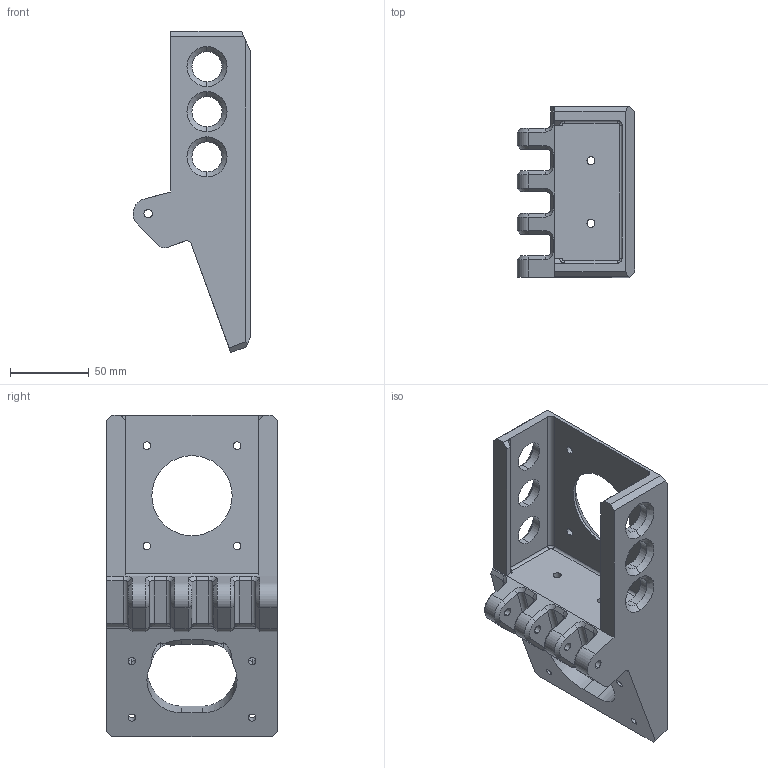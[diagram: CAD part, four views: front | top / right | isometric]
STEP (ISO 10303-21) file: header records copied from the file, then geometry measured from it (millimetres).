
FILE_DESCRIPTION (( 'STEP AP214' ), '1' );
FILE_NAME ('Bracket Half.STEP', '2025-06-10T03:28:48', ( '' ), ( '' ), 'SwSTEP 2.0', 'SolidWorks 2024', '' );
FILE_SCHEMA (( 'AUTOMOTIVE_DESIGN' ));
Length unit declared in the file: inch
Products named in the file (1): Bracket Half
Bounding box: 74.57 x 107.95 x 203.2 mm (x, y, z)
Volume: 425543.1 mm3; surface area: 87572.4 mm2
Topology: 1 solids, 2 shells, 270 faces, 648 edges, 394 vertices
Faces by surface type: cylinder 97, plane 91, cone 61, torus 12, bspline 9
Entity records: 9175 total; most frequent: CARTESIAN_POINT 2748, DIRECTION 1376, ORIENTED_EDGE 1296, EDGE_CURVE 648, AXIS2_PLACEMENT_3D 522, VERTEX_POINT 394, VECTOR 332, LINE 332
